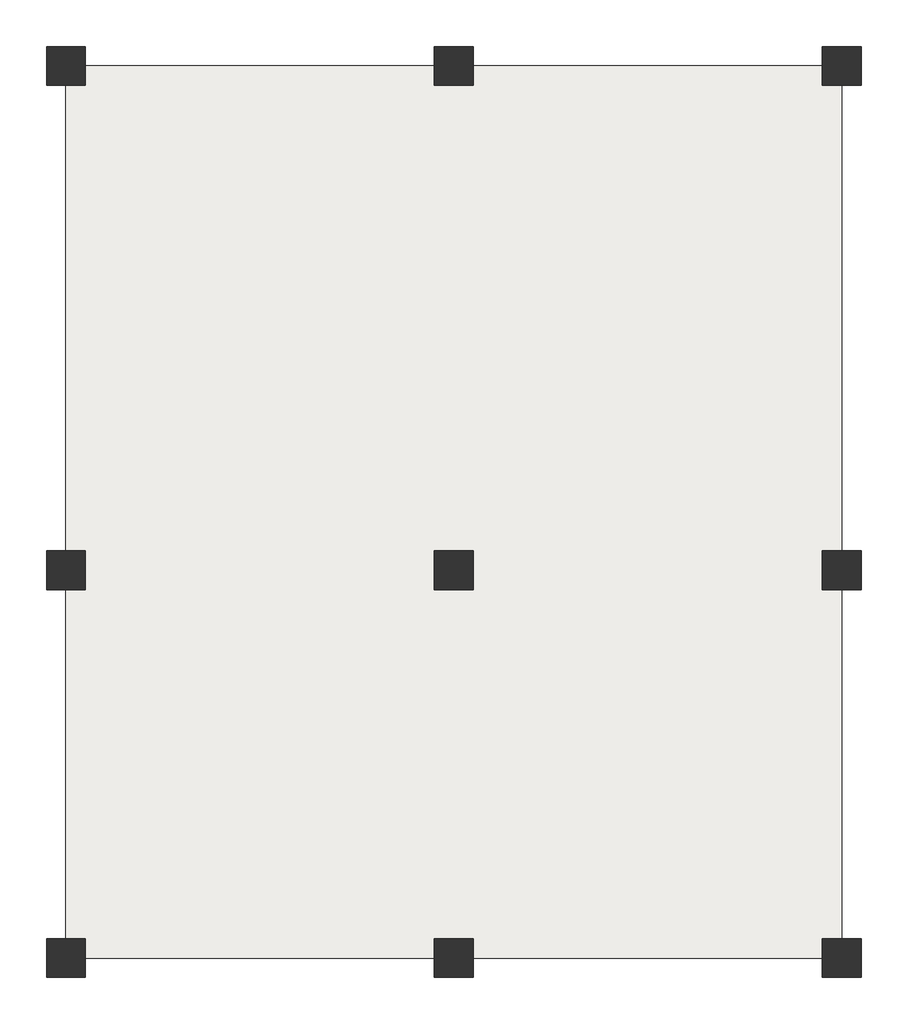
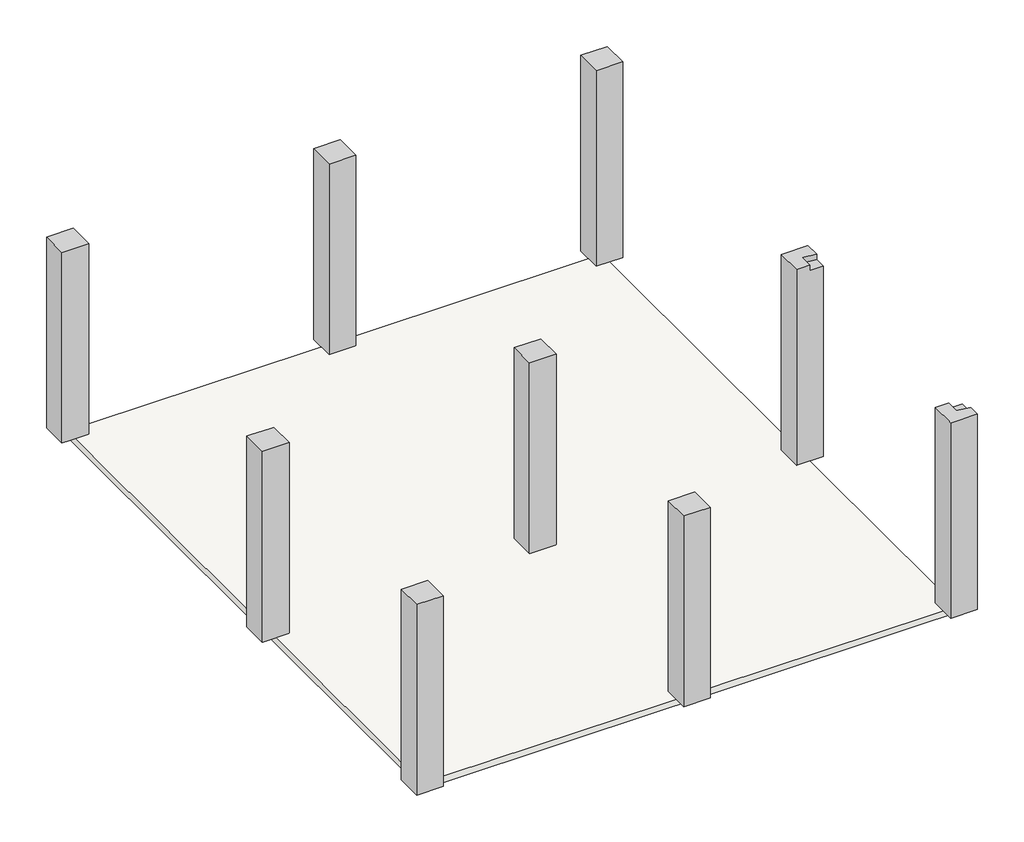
# One storey: 9 columns, 1 slab.
"""IFC4 building model written with IfcOpenShell, lengths in millimetres."""

from ifc_helpers import new_model, si_unit, frame, origin, place, context, project, spatial, polyline, outline, extrude, faceted_brep, element, save

model = new_model("IFC4")

# Units and contexts
model_context = context("Model", 3, world=origin())
ifc_project = project(units=[si_unit("LENGTHUNIT", "METRE", prefix="MILLI")], contexts=[model_context])

# Site, building, storey
site = spatial("IfcSite", under=ifc_project)
building = spatial("IfcBuilding", under=site)
storey = spatial("IfcBuildingStorey", under=building, Name="T.O.F", Elevation=-1676.4)

# Columns
placement = place(None, origin())
element("IfcColumn", 1, ObjectType="Concrete-Rectangular-Column : 24 x 24", at=placement, inside=storey, context=model_context, shape_type="Brep", body=[
    faceted_brep([(-35055.8783408, -1898.5036449, -1676.4), (-35055.8783408, -1288.9036449, -1676.4), (-34446.2783408, -1288.9036449, -1676.4), (-34446.2783408, -1898.5036449, -1676.4), (-35055.8783408, -1898.5036449, 2927.35), (-35055.8783408, -1796.9036449, 2927.35), (-35055.8783408, -1390.5036449, 2927.35), (-35055.8783408, -1288.9036449, 2927.35), (-34446.2783408, -1288.9036449, 2927.35), (-34446.2783408, -1898.5036449, 2927.35)], [[[0, 1, 2, 3]], [[1, 0, 4, 5, 6, 7]], [[2, 1, 7, 8]], [[3, 2, 8, 9]], [[0, 3, 9, 4]], [[7, 6, 5, 4, 9, 8]]]),
])
element("IfcColumn", 2, ObjectType="Concrete-Rectangular-Column : 24 x 24", at=placement, inside=storey, context=model_context, shape_type="Brep", body=[
    faceted_brep([(-41151.8783408, -1898.5036449, -1676.4), (-41151.8783408, -1288.9036449, -1676.4), (-40542.2783408, -1288.9036449, -1676.4), (-40542.2783408, -1898.5036449, -1676.4), (-41151.8783408, -1898.5036449, 2927.35), (-41151.8783408, -1288.9036449, 2927.35), (-41050.2783408, -1288.9036449, 2927.35), (-40643.8783408, -1288.9036449, 2927.35), (-40542.2783408, -1288.9036449, 2927.35), (-40542.2783408, -1390.5036449, 2927.35), (-40542.2783408, -1796.9036449, 2927.35), (-40542.2783408, -1898.5036449, 2927.35)], [[[0, 1, 2, 3]], [[1, 0, 4, 5]], [[2, 1, 5, 6, 7, 8]], [[3, 2, 8, 9, 10, 11]], [[0, 3, 11, 4]], [[5, 4, 11, 10, 9, 8, 7, 6]]]),
])
element("IfcColumn", 3, ObjectType="Concrete-Rectangular-Column : 24 x 24", at=placement, inside=storey, context=model_context, shape_type="SweptSolid", body=[
    extrude(outline(polyline([(-35055.8783408, 4197.4963551), (-35055.8783408, 4807.0963551), (-34446.2783408, 4807.0963551), (-34446.2783408, 4197.4963551), (-35055.8783408, 4197.4963551)])), frame((0.0, 0.0, -1676.4), z_axis=(0.0, 0.0, 1.0), x_axis=(1.0, 0.0, 0.0)), (0.0, 0.0, 1.0), 4603.75),
])
element("IfcColumn", 4, ObjectType="Concrete-Rectangular-Column : 24 x 24", at=placement, inside=storey, context=model_context, shape_type="Brep", body=[
    faceted_brep([(-41151.8783408, 4197.4963551, -1676.4), (-41151.8783408, 4807.0963551, -1676.4), (-40542.2783408, 4807.0963551, -1676.4), (-40542.2783408, 4197.4963551, -1676.4), (-41151.8783408, 4197.4963551, 2927.35), (-41151.8783408, 4807.0963551, 2927.35), (-41050.2783408, 4807.0963551, 2927.35), (-40643.8783408, 4807.0963551, 2927.35), (-40542.2783408, 4807.0963551, 2927.35), (-40542.2783408, 4197.4963551, 2927.35), (-40643.8783408, 4197.4963551, 2927.35), (-41050.2783408, 4197.4963551, 2927.35)], [[[0, 1, 2, 3]], [[1, 0, 4, 5]], [[2, 1, 5, 6, 7, 8]], [[3, 2, 8, 9]], [[0, 3, 9, 10, 11, 4]], [[5, 4, 11, 10, 9, 8, 7, 6]]]),
])
element("IfcColumn", 5, ObjectType="Concrete-Rectangular-Column : 24 x 24", at=placement, inside=storey, context=model_context, shape_type="SweptSolid", body=[
    extrude(outline(polyline([(-35055.8783408, 12122.2963551), (-35055.8783408, 12731.8963551), (-34446.2783408, 12731.8963551), (-34446.2783408, 12122.2963551), (-35055.8783408, 12122.2963551)])), frame((0.0, 0.0, -1676.4), z_axis=(0.0, 0.0, 1.0), x_axis=(1.0, 0.0, 0.0)), (0.0, 0.0, 1.0), 4603.75),
])
element("IfcColumn", 6, ObjectType="Concrete-Rectangular-Column : 24 x 24", at=placement, inside=storey, context=model_context, shape_type="Brep", body=[
    faceted_brep([(-41151.8783408, 12122.2963551, -1676.4), (-41151.8783408, 12731.8963551, -1676.4), (-40542.2783408, 12731.8963551, -1676.4), (-40542.2783408, 12122.2963551, -1676.4), (-41151.8783408, 12122.2963551, 2927.35), (-41151.8783408, 12731.8963551, 2927.35), (-40542.2783408, 12731.8963551, 2927.35), (-40542.2783408, 12122.2963551, 2927.35), (-40643.8783408, 12122.2963551, 2927.35), (-41050.2783408, 12122.2963551, 2927.35)], [[[0, 1, 2, 3]], [[1, 0, 4, 5]], [[2, 1, 5, 6]], [[3, 2, 6, 7]], [[0, 3, 7, 8, 9, 4]], [[5, 4, 9, 8, 7, 6]]]),
])
element("IfcColumn", 7, ObjectType="Concrete-Rectangular-Column : 24 x 24", at=placement, inside=storey, context=model_context, shape_type="Brep", body=[
    faceted_brep([(-28959.8783408, 4197.4963551, -1676.4), (-28959.8783408, 4807.0963551, -1676.4), (-28350.2783408, 4807.0963551, -1676.4), (-28350.2783408, 4197.4963551, -1676.4), (-28959.8783408, 4197.4963551, 3048.0), (-28959.8783408, 4807.0963551, 3048.0), (-28858.2783408, 4807.0963551, 3048.0), (-28451.8783408, 4807.0963551, 3048.0), (-28350.2783408, 4807.0963551, 3048.0), (-28350.2783408, 4462.1686738, 3048.0), (-28350.2783408, 4462.1686738, 2921.0), (-28350.2783408, 4197.4963551, 2921.0), (-28451.8783408, 4197.4963551, 2921.0), (-28655.0783408, 4197.4963551, 2921.0), (-28655.0783408, 4197.4963551, 3048.0), (-28858.2783408, 4197.4963551, 3048.0), (-28655.0783408, 4502.2963551, 3048.0), (-28655.0783408, 4502.2963551, 2921.0)], [[[0, 1, 2, 3]], [[1, 0, 4, 5]], [[2, 1, 5, 6, 7, 8]], [[3, 2, 8, 9, 10, 11]], [[0, 3, 11, 12, 13, 14, 15, 4]], [[5, 4, 15, 14, 16, 9, 8, 7, 6]], [[10, 17, 13, 12, 11]], [[17, 16, 14, 13]], [[16, 17, 10, 9]]]),
])
element("IfcColumn", 8, ObjectType="Concrete-Rectangular-Column : 24 x 24", at=placement, inside=storey, context=model_context, shape_type="Brep", body=[
    faceted_brep([(-28959.8783408, -1898.5036449, -1676.4), (-28959.8783408, -1288.9036449, -1676.4), (-28350.2783408, -1288.9036449, -1676.4), (-28350.2783408, -1898.5036449, -1676.4), (-28959.8783408, -1898.5036449, 3048.0), (-28959.8783408, -1796.9036449, 3048.0), (-28959.8783408, -1390.5036449, 3048.0), (-28959.8783408, -1288.9036449, 3048.0), (-28858.2783408, -1288.9036449, 3048.0), (-28655.0783408, -1288.9036449, 3048.0), (-28655.0783408, -1288.9036449, 2921.0), (-28451.8783408, -1288.9036449, 2921.0), (-28350.2783408, -1288.9036449, 2921.0), (-28350.2783408, -1633.8313262, 2921.0), (-28350.2783408, -1633.8313262, 3048.0), (-28350.2783408, -1898.5036449, 3048.0), (-28655.0783408, -1593.7036449, 3048.0), (-28655.0783408, -1593.7036449, 2921.0)], [[[0, 1, 2, 3]], [[1, 0, 4, 5, 6, 7]], [[2, 1, 7, 8, 9, 10, 11, 12]], [[3, 2, 12, 13, 14, 15]], [[0, 3, 15, 4]], [[7, 6, 5, 4, 15, 14, 16, 9, 8]], [[10, 17, 13, 12, 11]], [[17, 16, 14, 13]], [[16, 17, 10, 9]]]),
])
element("IfcColumn", 9, ObjectType="Concrete-Rectangular-Column : 24 x 24", at=placement, inside=storey, context=model_context, shape_type="Brep", body=[
    faceted_brep([(-28959.8783408, 12122.2963551, -1676.4), (-28959.8783408, 12731.8963551, -1676.4), (-28350.2783408, 12731.8963551, -1676.4), (-28350.2783408, 12122.2963551, -1676.4), (-28959.8783408, 12122.2963551, 3048.0), (-28959.8783408, 12223.8963551, 3048.0), (-28959.8783408, 12630.2963551, 3048.0), (-28959.8783408, 12731.8963551, 3048.0), (-28350.2783408, 12731.8963551, 3048.0), (-28350.2783408, 12122.2963551, 3048.0), (-28451.8783408, 12122.2963551, 3048.0), (-28858.2783408, 12122.2963551, 3048.0)], [[[0, 1, 2, 3]], [[4, 5, 6, 7, 1, 0]], [[7, 8, 2, 1]], [[8, 9, 3, 2]], [[9, 10, 11, 4, 0, 3]], [[4, 11, 10, 9, 8, 7, 6, 5]]]),
])

# Slab
element("IfcSlab", 10, ObjectType="6\" Foundation Slab", at=placement, inside=storey, context=model_context, shape_type="Brep", body=[
    faceted_brep([(-28655.0783408, 12427.0963551, -1828.8), (-28655.0783408, 11512.6963551, -1828.8), (-28655.0783408, 5416.6963551, -1828.8), (-28655.0783408, 3587.8963551, -1828.8), (-28655.0783408, -679.3036449, -1828.8), (-28655.0783408, -1593.7036449, -1828.8), (-29264.6783408, -1593.7036449, -1828.8), (-34141.4783408, -1593.7036449, -1828.8), (-35360.6783408, -1593.7036449, -1828.8), (-40237.4783408, -1593.7036449, -1828.8), (-40847.0783408, -1593.7036449, -1828.8), (-40847.0783408, -679.3036449, -1828.8), (-40847.0783408, 3587.8963551, -1828.8), (-40847.0783408, 5416.6963551, -1828.8), (-40847.0783408, 11512.6963551, -1828.8), (-40847.0783408, 12427.0963551, -1828.8), (-40237.4783408, 12427.0963551, -1828.8), (-35360.6783408, 12427.0963551, -1828.8), (-34141.4783408, 12427.0963551, -1828.8), (-29264.6783408, 12427.0963551, -1828.8), (-28655.0783408, 12427.0963551, -1676.4), (-29264.6783408, 12427.0963551, -1676.4), (-34141.4783408, 12427.0963551, -1676.4), (-35360.6783408, 12427.0963551, -1676.4), (-40237.4783408, 12427.0963551, -1676.4), (-40847.0783408, 12427.0963551, -1676.4), (-40847.0783408, 11512.6963551, -1676.4), (-40847.0783408, 5416.6963551, -1676.4), (-40847.0783408, 3587.8963551, -1676.4), (-40847.0783408, -679.3036449, -1676.4), (-40847.0783408, -1593.7036449, -1676.4), (-40237.4783408, -1593.7036449, -1676.4), (-35360.6783408, -1593.7036449, -1676.4), (-34141.4783408, -1593.7036449, -1676.4), (-29264.6783408, -1593.7036449, -1676.4), (-28655.0783408, -1593.7036449, -1676.4), (-28655.0783408, -679.3036449, -1676.4), (-28655.0783408, 3587.8963551, -1676.4), (-28655.0783408, 5416.6963551, -1676.4), (-28655.0783408, 11512.6963551, -1676.4)], [[[0, 1, 2, 3, 4, 5, 6, 7, 8, 9, 10, 11, 12, 13, 14, 15, 16, 17, 18, 19]], [[20, 21, 22, 23, 24, 25, 26, 27, 28, 29, 30, 31, 32, 33, 34, 35, 36, 37, 38, 39]], [[5, 4, 3, 2, 1, 0, 20, 39, 38, 37, 36, 35]], [[10, 9, 8, 7, 6, 5, 35, 34, 33, 32, 31, 30]], [[15, 14, 13, 12, 11, 10, 30, 29, 28, 27, 26, 25]], [[0, 19, 18, 17, 16, 15, 25, 24, 23, 22, 21, 20]]]),
])

save(model, "model.ifc")
